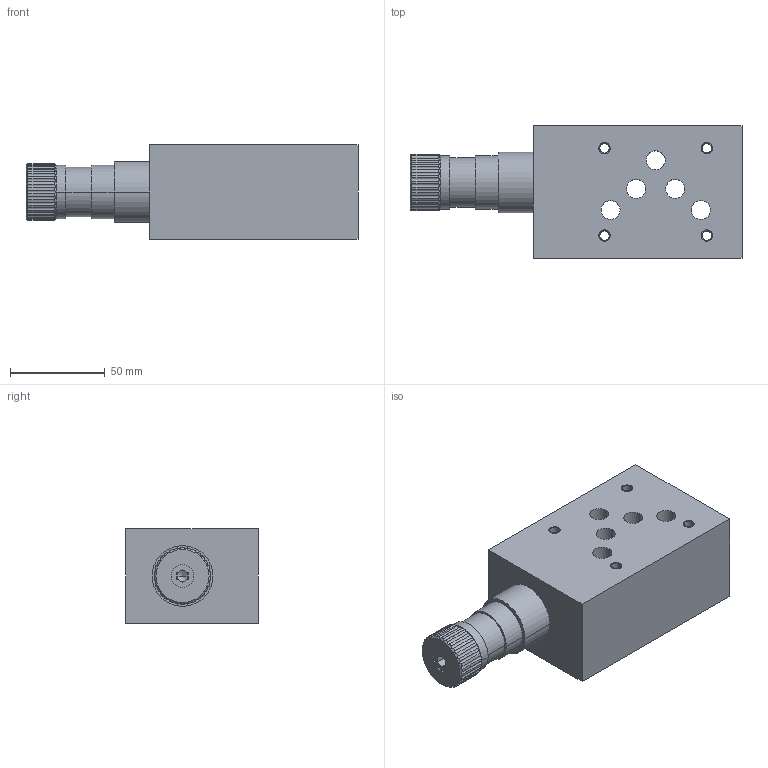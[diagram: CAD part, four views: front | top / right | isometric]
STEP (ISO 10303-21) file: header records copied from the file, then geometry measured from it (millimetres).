
FILE_DESCRIPTION((''),'2;1');
FILE_NAME('VRN2_10_MP','2011-03-15T',('paro'),(''),'PRO/ENGINEER BY PARAMETRIC TECHNOLOGY CORPORATION, 2010180','PRO/ENGINEER BY PARAMETRIC TECHNOLOGY CORPORATION, 2010180','');
FILE_SCHEMA(('CONFIG_CONTROL_DESIGN'));
Length unit declared in the file: millimetre
Products named in the file (1): VRN2_10_MP
Bounding box: 175 x 70 x 50 mm (x, y, z)
Volume: 401694.8 mm3; surface area: 52467.5 mm2
Topology: 1 solids, 6 shells, 158 faces, 430 edges, 290 vertices
Faces by surface type: cylinder 114, plane 34, cone 10
Entity records: 5973 total; most frequent: CARTESIAN_POINT 1909, DIRECTION 836, ORIENTED_EDGE 828, EDGE_CURVE 424, AXIS2_PLACEMENT_3D 337, VERTEX_POINT 286, EDGE_LOOP 194, CIRCLE 176
